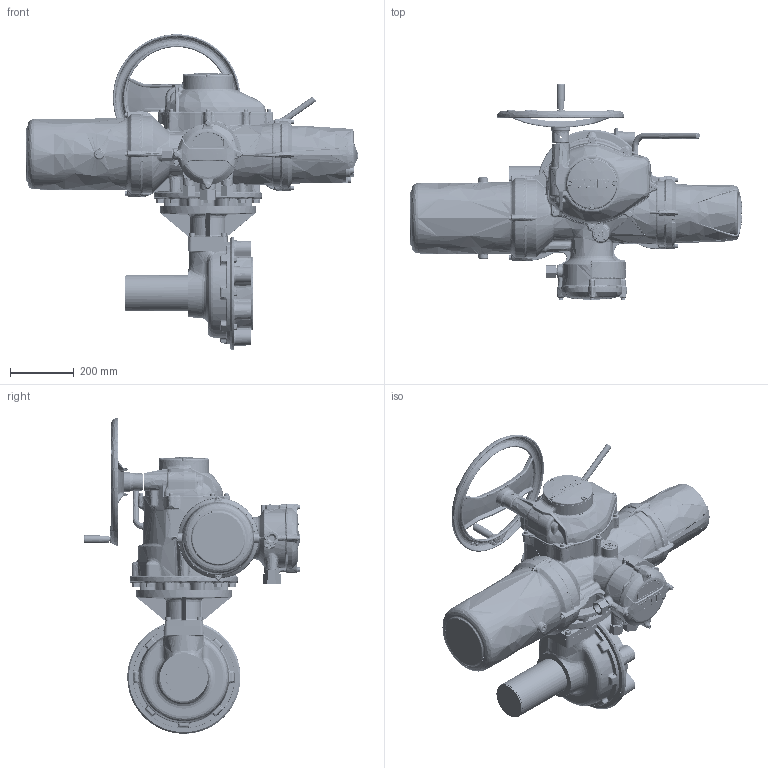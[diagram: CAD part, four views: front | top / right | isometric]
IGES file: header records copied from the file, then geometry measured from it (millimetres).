
Start section: C
Global section: file name: II5-91-SHWIB9STD-1.igs; native system: By Siemens PLM Incorporated; preprocessor: XPlus GENERIC/IGES 18.0.17; author: Author; organization: Title; date: 20160624.103011; units: millimetre
Bounding box: 1041.8 x 680.05 x 990 mm (x, y, z)
Surface area: 2536042.3 mm2 (no closed solid volume)
Topology: 0 solids, 0 shells, 9170 faces, 50234 edges, 49791 vertices
Faces by surface type: bspline 9170
